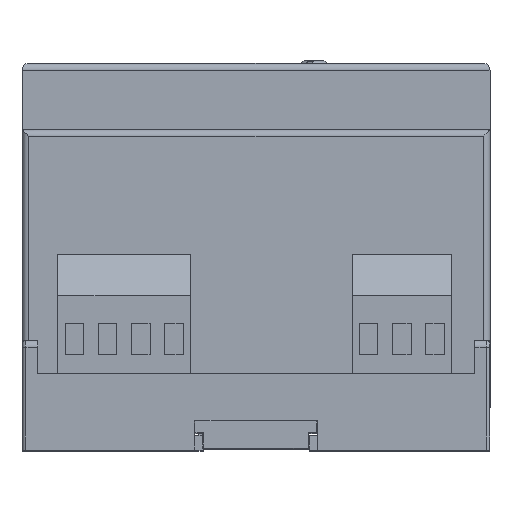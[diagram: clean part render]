
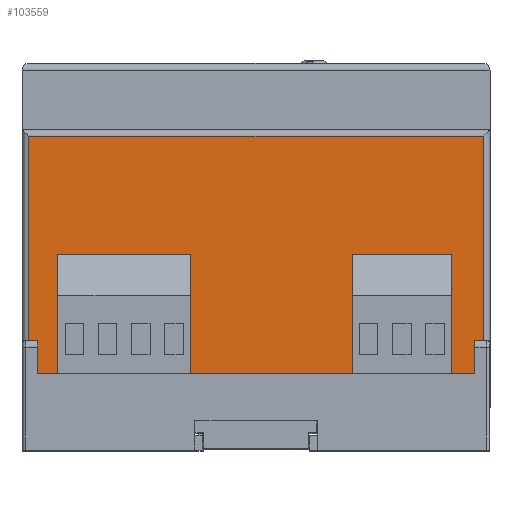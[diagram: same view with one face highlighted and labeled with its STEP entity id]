
A CAD part, top view. The second image highlights one B-rep face of the part: STEP entity #103559.
In plain terms, the highlighted planar face has unit normal (0, 0, 1).
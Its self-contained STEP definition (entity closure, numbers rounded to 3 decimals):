
#444 = VERTEX_POINT ( 'NONE', #127001 ) ;
#1630 = PLANE ( 'NONE',  #79685 ) ;
#1824 = LINE ( 'NONE', #111650, #54095 ) ;
#2029 = EDGE_CURVE ( 'NONE', #62081, #9769, #1824, .T. ) ;
#2418 = VERTEX_POINT ( 'NONE', #82762 ) ;
#2770 = VERTEX_POINT ( 'NONE', #37344 ) ;
#5383 = EDGE_CURVE ( 'NONE', #444, #83853, #73509, .T. ) ;
#7243 = ORIENTED_EDGE ( 'NONE', *, *, #131437, .T. ) ;
#9769 = VERTEX_POINT ( 'NONE', #76005 ) ;
#10219 = DIRECTION ( 'NONE',  ( 0.707, -0.707, 0. ) ) ;
#12130 = DIRECTION ( 'NONE',  ( -1., 0., 0. ) ) ;
#12420 = CARTESIAN_POINT ( 'NONE',  ( 1.5, -6.5, 0. ) ) ;
#20295 = CARTESIAN_POINT ( 'NONE',  ( 67.5, -5., 0. ) ) ;
#21427 = EDGE_CURVE ( 'NONE', #9769, #444, #122926, .T. ) ;
#22924 = DIRECTION ( 'NONE',  ( 0.707, 0.707, 0. ) ) ;
#26418 = EDGE_CURVE ( 'NONE', #2418, #74171, #33964, .T. ) ;
#26673 = ORIENTED_EDGE ( 'NONE', *, *, #2029, .T. ) ;
#26776 = CARTESIAN_POINT ( 'NONE',  ( 1.5, -5., 0. ) ) ;
#27659 = EDGE_LOOP ( 'NONE', ( #45781, #69220, #33250, #95415, #112127, #91821, #7243, #85396, #123134, #26673 ) ) ;
#28800 = VERTEX_POINT ( 'NONE', #102058 ) ;
#29793 = VECTOR ( 'NONE', #22924, 1000. ) ;
#30285 = VECTOR ( 'NONE', #70459, 1000. ) ;
#32875 = VECTOR ( 'NONE', #63181, 1000. ) ;
#33078 = EDGE_CURVE ( 'NONE', #2418, #2770, #62692, .T. ) ;
#33250 = ORIENTED_EDGE ( 'NONE', *, *, #41807, .F. ) ;
#33964 = LINE ( 'NONE', #26776, #61745 ) ;
#37344 = CARTESIAN_POINT ( 'NONE',  ( 69., -6.5, 0. ) ) ;
#41228 = VERTEX_POINT ( 'NONE', #105835 ) ;
#41807 = EDGE_CURVE ( 'NONE', #28800, #83853, #116256, .T. ) ;
#44308 = DIRECTION ( 'NONE',  ( 0., -1., 0. ) ) ;
#45781 = ORIENTED_EDGE ( 'NONE', *, *, #21427, .T. ) ;
#47075 = DIRECTION ( 'NONE',  ( 1., 0., 0. ) ) ;
#49396 = CARTESIAN_POINT ( 'NONE',  ( 69., -5., 0. ) ) ;
#52636 = CARTESIAN_POINT ( 'NONE',  ( 1.5, -5., 0. ) ) ;
#53591 = VECTOR ( 'NONE', #68311, 1000. ) ;
#54095 = VECTOR ( 'NONE', #69152, 1000. ) ;
#54369 = CARTESIAN_POINT ( 'NONE',  ( 1., 31.8, 0. ) ) ;
#60210 = EDGE_CURVE ( 'NONE', #70400, #41228, #81439, .T. ) ;
#61745 = VECTOR ( 'NONE', #120872, 1000. ) ;
#62081 = VERTEX_POINT ( 'NONE', #70613 ) ;
#62692 = LINE ( 'NONE', #20295, #115015 ) ;
#63181 = DIRECTION ( 'NONE',  ( 0., -1., 0. ) ) ;
#64202 = CARTESIAN_POINT ( 'NONE',  ( 0., 31.8, 0. ) ) ;
#68311 = DIRECTION ( 'NONE',  ( 1., 0., 0. ) ) ;
#69152 = DIRECTION ( 'NONE',  ( -1., 0., 0. ) ) ;
#69220 = ORIENTED_EDGE ( 'NONE', *, *, #5383, .T. ) ;
#70400 = VERTEX_POINT ( 'NONE', #73414 ) ;
#70459 = DIRECTION ( 'NONE',  ( 0., -1., 0. ) ) ;
#70613 = CARTESIAN_POINT ( 'NONE',  ( 69.5, 30.8, 0. ) ) ;
#72013 = VECTOR ( 'NONE', #116203, 1000. ) ;
#72994 = CARTESIAN_POINT ( 'NONE',  ( 3., -5., 0. ) ) ;
#73414 = CARTESIAN_POINT ( 'NONE',  ( 69., -9., 0. ) ) ;
#73509 = LINE ( 'NONE', #99189, #125810 ) ;
#74171 = VERTEX_POINT ( 'NONE', #72994 ) ;
#74747 = DIRECTION ( 'NONE',  ( 0., 0., -1. ) ) ;
#76005 = CARTESIAN_POINT ( 'NONE',  ( 1., 30.8, 0. ) ) ;
#77887 = EDGE_CURVE ( 'NONE', #28800, #74171, #85415, .T. ) ;
#79685 = AXIS2_PLACEMENT_3D ( 'NONE', #64202, #74747, #12130 ) ;
#81439 = LINE ( 'NONE', #120394, #53591 ) ;
#82684 = CARTESIAN_POINT ( 'NONE',  ( 1.5, -9., 0. ) ) ;
#82762 = CARTESIAN_POINT ( 'NONE',  ( 67.5, -5., 0. ) ) ;
#83853 = VERTEX_POINT ( 'NONE', #82684 ) ;
#85396 = ORIENTED_EDGE ( 'NONE', *, *, #60210, .T. ) ;
#85415 = LINE ( 'NONE', #12420, #29793 ) ;
#91821 = ORIENTED_EDGE ( 'NONE', *, *, #33078, .T. ) ;
#95156 = VECTOR ( 'NONE', #44308, 1000. ) ;
#95415 = ORIENTED_EDGE ( 'NONE', *, *, #77887, .T. ) ;
#99189 = CARTESIAN_POINT ( 'NONE',  ( 1.5, -9., 0. ) ) ;
#102058 = CARTESIAN_POINT ( 'NONE',  ( 1.5, -6.5, 0. ) ) ;
#103559 = ADVANCED_FACE ( 'NONE', ( #127013 ), #1630, .F. ) ;
#103820 = LINE ( 'NONE', #49396, #30285 ) ;
#105718 = CARTESIAN_POINT ( 'NONE',  ( 69.5, 31.8, 0. ) ) ;
#105835 = CARTESIAN_POINT ( 'NONE',  ( 69.5, -9., 0. ) ) ;
#111650 = CARTESIAN_POINT ( 'NONE',  ( 0., 30.8, 0. ) ) ;
#112127 = ORIENTED_EDGE ( 'NONE', *, *, #26418, .F. ) ;
#115015 = VECTOR ( 'NONE', #10219, 1000. ) ;
#116203 = DIRECTION ( 'NONE',  ( 0., 1., 0. ) ) ;
#116256 = LINE ( 'NONE', #52636, #32875 ) ;
#120394 = CARTESIAN_POINT ( 'NONE',  ( 70.5, -9., 0. ) ) ;
#120872 = DIRECTION ( 'NONE',  ( -1., 0., 0. ) ) ;
#122926 = LINE ( 'NONE', #54369, #95156 ) ;
#123134 = ORIENTED_EDGE ( 'NONE', *, *, #123843, .T. ) ;
#123843 = EDGE_CURVE ( 'NONE', #41228, #62081, #127623, .T. ) ;
#125810 = VECTOR ( 'NONE', #47075, 1000. ) ;
#127001 = CARTESIAN_POINT ( 'NONE',  ( 1., -9., 0. ) ) ;
#127013 = FACE_OUTER_BOUND ( 'NONE', #27659, .T. ) ;
#127623 = LINE ( 'NONE', #105718, #72013 ) ;
#131437 = EDGE_CURVE ( 'NONE', #2770, #70400, #103820, .T. ) ;
